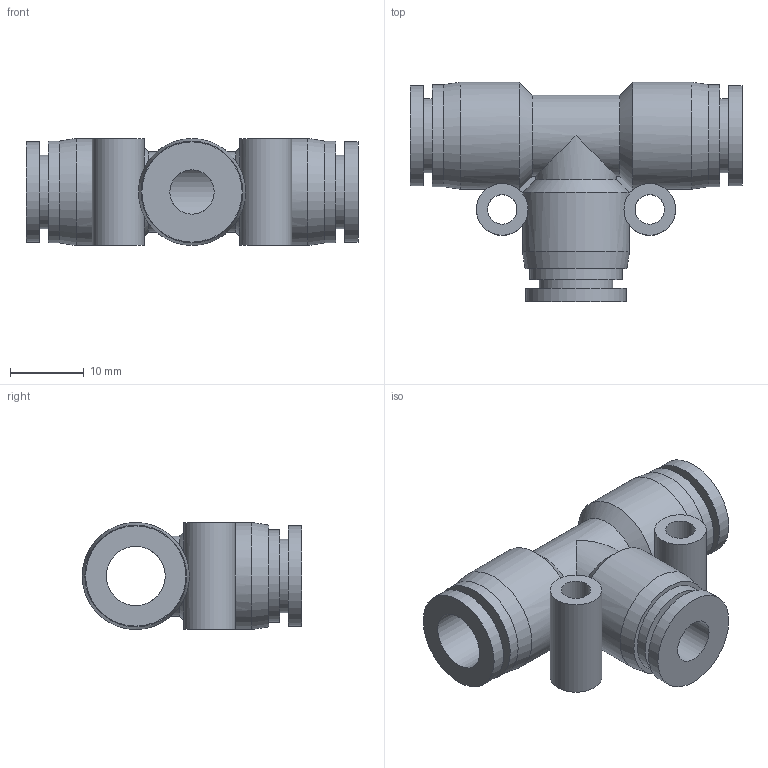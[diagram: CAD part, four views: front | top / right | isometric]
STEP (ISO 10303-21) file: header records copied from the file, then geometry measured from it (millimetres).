
FILE_DESCRIPTION((''),'2;1');
FILE_NAME('S:\UTecnico\ArchivioUT\Speciali Clienti\Speciali KONFIT\Plastica\RP\RP 55\RP550806.stp','2012-05-21T16:55:51',('UT5'),(''),'Autodesk Inventor 2012','Autodesk Inventor 2012','');
FILE_SCHEMA(('AUTOMOTIVE_DESIGN { 1 0 10303 214 1 1 1 1 }'));
Length unit declared in the file: millimetre
Products named in the file (1): RP550806
Bounding box: 45 x 29.75 x 14.5 mm (x, y, z)
Volume: 6602.9 mm3; surface area: 5702.9 mm2
Topology: 1 solids, 1 shells, 46 faces, 109 edges, 73 vertices
Faces by surface type: cylinder 21, plane 18, cone 7
Full cylindrical faces by diameter (mm): 4 x2, 6 x1, 7 x2, 8 x1, 10 x3, 12.5 x1, 13.6 x3, 13.8 x2, 14.5 x3
Entity records: 1437 total; most frequent: CARTESIAN_POINT 412, DIRECTION 208, ORIENTED_EDGE 156, AXIS2_PLACEMENT_3D 96, EDGE_LOOP 84, EDGE_CURVE 78, VERTEX_POINT 64, FACE_OUTER_BOUND 46
